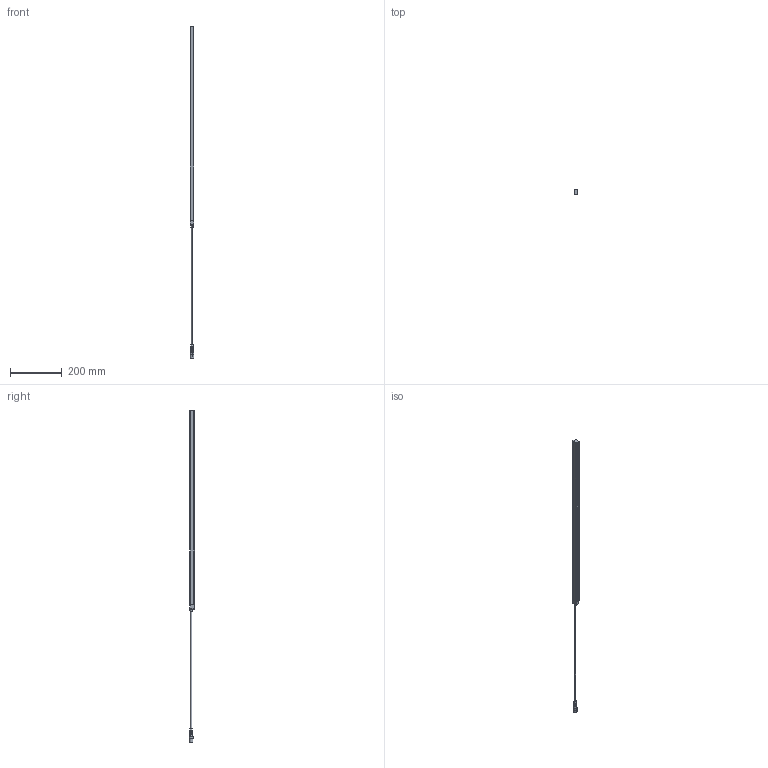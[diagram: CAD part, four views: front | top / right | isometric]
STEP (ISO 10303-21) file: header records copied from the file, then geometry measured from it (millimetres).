
FILE_DESCRIPTION (( 'STEP AP203' ), '1' );
FILE_NAME ('m400_750.STEP', '2008-10-22T14:26:02', ( 'CEDES AG' ), ( 'CEDES AG' ), 'SwSTEP 2.0', 'SolidWorks 2007', '' );
FILE_SCHEMA (( 'CONFIG_CONTROL_DESIGN' ));
Length unit declared in the file: millimetre
Products named in the file (4): master_m400_p15x20_m400_p1520_750; master_m400_end_cap_Standard; master_m400_connectingcable_female; m400_750
Assembly tree (3 placements, depth 2):
  m400_750
    master_m400_p15x20_m400_p1520_750
    master_m400_end_cap_Standard
    master_m400_connectingcable_female
Bounding box: 15.5 x 21.8 x 1287.08 mm (x, y, z)
Volume: 251870.3 mm3; surface area: 70409.2 mm2
Topology: 3 solids, 4 shells, 141 faces, 327 edges, 204 vertices
Faces by surface type: plane 75, cylinder 28, torus 20, cone 18
Entity records: 4401 total; most frequent: DIRECTION 745, CARTESIAN_POINT 678, ORIENTED_EDGE 654, EDGE_CURVE 327, AXIS2_PLACEMENT_3D 271, VERTEX_POINT 204, VECTOR 203, LINE 203
